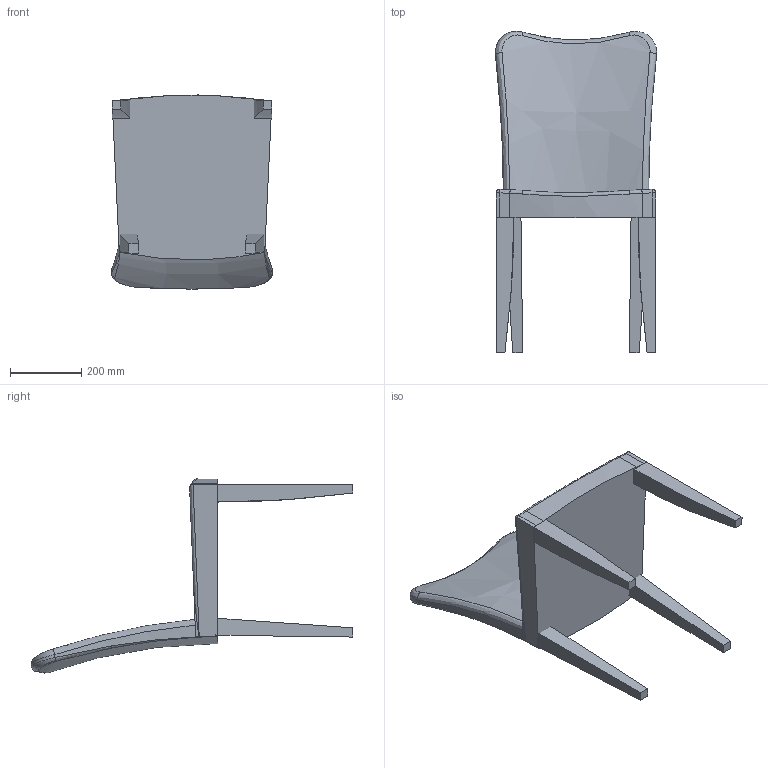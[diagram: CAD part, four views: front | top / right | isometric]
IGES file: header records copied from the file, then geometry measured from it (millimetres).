
Global section: file name: VincentSheppard_Melissa; native system: unknown; preprocessor: unknown; author: ict@vincentsheppard.com; organization: unknown; date: 20180522.162144; units: millimetre
Bounding box: 453.9 x 904.61 x 546.14 mm (x, y, z)
Volume: 23599382.4 mm3; surface area: 1172878.3 mm2
Topology: 5 solids, 5 shells, 66 faces, 153 edges, 94 vertices
Faces by surface type: bspline 66
